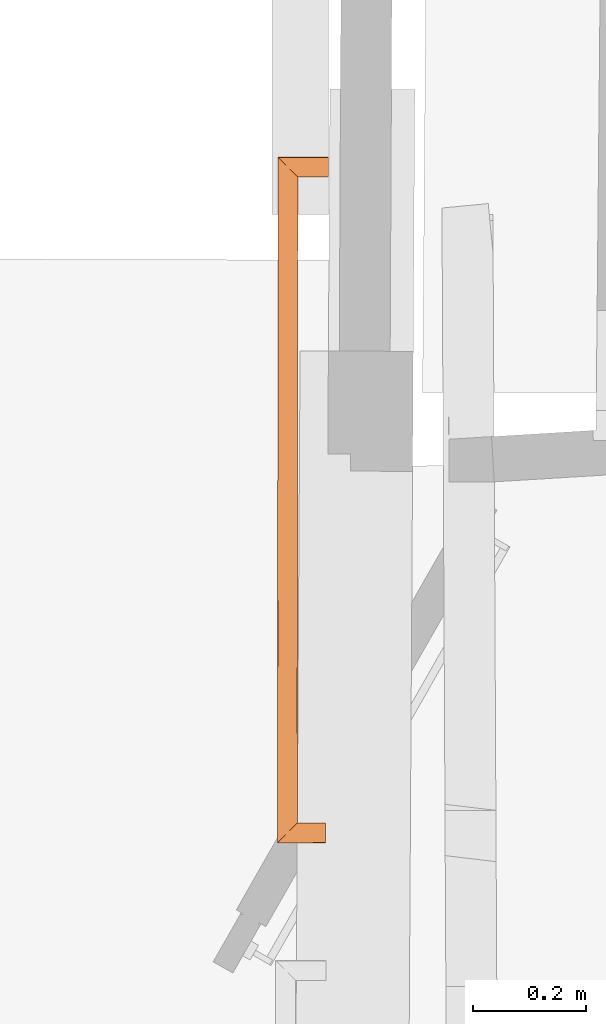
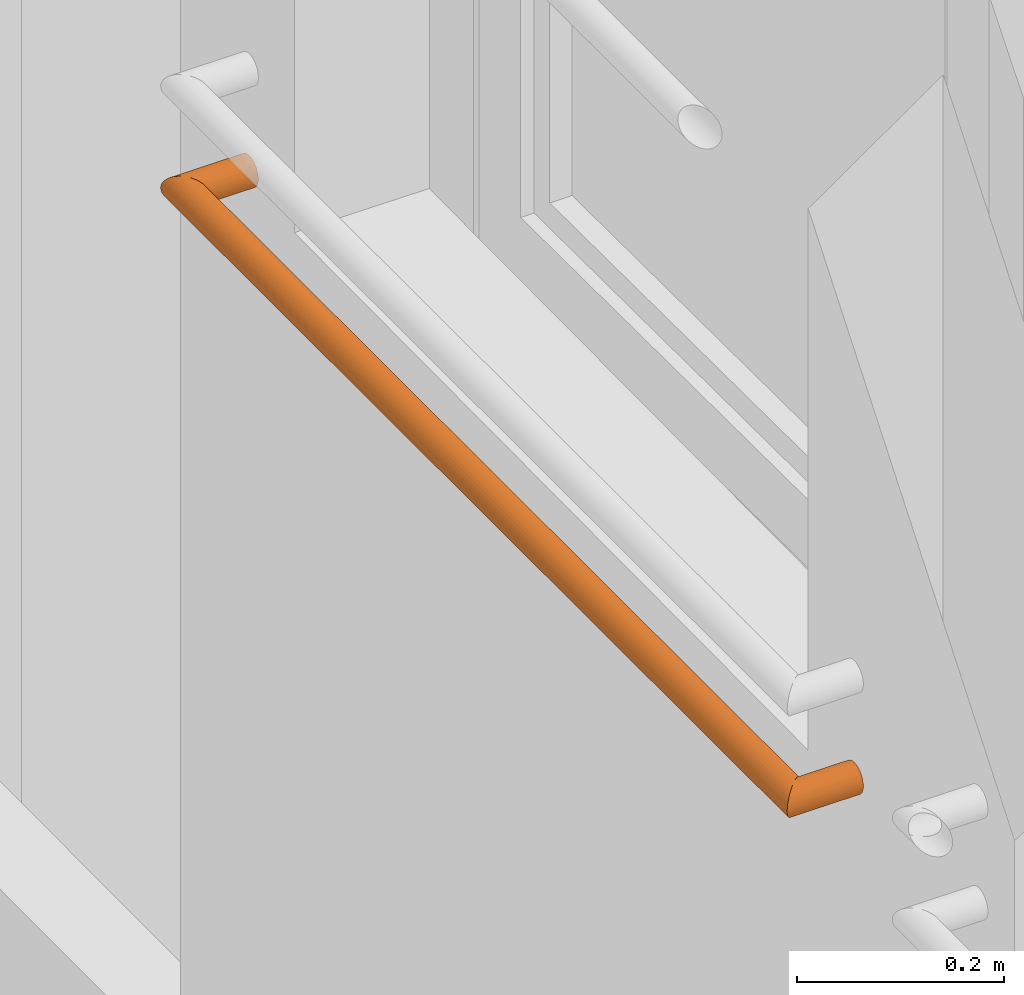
# One storey, part 93 of 97: 1 proxy.
"""IFC2X3 building model written with IfcOpenShell, lengths in centimetres."""

from ifc_helpers import new_model, entity, si_unit, converted_unit, direction, origin, origin_with_axes, place, context, subcontext, project, spatial, faceted_brep, material, type_object, element, save


model = new_model("IFC2X3")

# Units and contexts
model_context = context("Model", 3, precision=0.0001, world=origin(), true_north=direction((0.225632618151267, 0.974212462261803, 0.0)))
body_context = subcontext(model_context, "Body", "Model", "MODEL_VIEW")
ifc_project = project(units=[si_unit("LENGTHUNIT", "METRE", prefix="CENTI"), si_unit("AREAUNIT", "SQUARE_METRE", prefix="CENTI"), si_unit("VOLUMEUNIT", "CUBIC_METRE", prefix="CENTI"), converted_unit("PLANEANGLEUNIT", "DEGREE", entity("IfcRatioMeasure", 0.0174532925), si_unit("PLANEANGLEUNIT", "RADIAN"), dimensions=[0, 0, 0, 0, 0, 0, 0])], contexts=[model_context])

# Site, building, storey
site_placement = place(None, origin_with_axes())
site = spatial("IfcSite", under=ifc_project, at=site_placement, Name="Default Site", CompositionType="ELEMENT")
building_placement = place(site_placement, origin_with_axes())
building = spatial("IfcBuilding", under=site, at=building_placement, Name="Default Building", CompositionType="ELEMENT")
storey_placement = place(building_placement, origin_with_axes())
storey = spatial("IfcBuildingStorey", under=building, at=storey_placement, Name="Rez-de-chaussée", CompositionType="ELEMENT", Elevation=0.0)

# Proxy
ifc_material = material(Name="Aluminium mat")
building_element_proxy_type = type_object("IfcBuildingElementProxyType", Name="Profil [C] Ø35mm", PredefinedType="NOTDEFINED", material=ifc_material)
proxy_placement = place(storey_placement, origin_with_axes())
element("IfcBuildingElementProxy", 1, at=proxy_placement, inside=storey, type_object=building_element_proxy_type, material=ifc_material, Name="Extrusion (solide) 1702443", context=body_context, shape_type="Brep", body=[
    faceted_brep([(-1369.52114105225, -54.8991978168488, 300.0), (-1369.49453353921, -54.8726325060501, 299.696111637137), (-1361.02104187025, -54.8794747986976, 299.696111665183), (-1361.02113724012, -54.9060614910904, 299.999999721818), (-1369.49453353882, -54.8726320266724, 299.696111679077), (-1369.41556930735, -54.7937476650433, 299.401473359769), (-1361.02104187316, -54.800526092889, 299.40147299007), (-1361.02104186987, -54.8794743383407, 299.696111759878), (-1369.41556930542, -54.7937452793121, 299.401473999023), (-1369.28653717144, -54.6649289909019, 299.125003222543), (-1361.02094650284, -54.6716036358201, 299.125003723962), (-1361.0210418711, -54.8005235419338, 299.401473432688), (-1369.28653717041, -54.6649277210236, 299.125003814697), (-1369.11144256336, -54.4900981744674, 298.875119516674), (-1361.02075576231, -54.4966331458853, 298.875122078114), (-1361.02094650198, -54.6716025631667, 299.12500442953), (-1369.11144256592, -54.4901013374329, 298.875117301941), (-1368.89553070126, -54.2745776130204, 298.659419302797), (-1361.0205650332, -54.2809370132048, 298.65941971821), (-1361.02075576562, -54.4966372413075, 298.875120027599), (-1368.89553070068, -54.2745769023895, 298.659420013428), (-1368.64547729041, -54.0248993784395, 298.484452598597), (-1361.0203742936, -54.0310565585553, 298.484452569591), (-1361.02056503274, -54.2809364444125, 298.659420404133), (-1368.64547729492, -54.0249049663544, 298.484444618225), (-1368.36881637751, -53.7486634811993, 298.355526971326), (-1361.02018356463, -53.754599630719, 298.355527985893), (-1361.0203742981, -54.0310621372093, 298.484444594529), (-1368.36881637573, -53.7486612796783, 298.355531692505), (-1368.07384491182, -53.4542527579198, 298.276581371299), (-1361.01989746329, -53.4599452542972, 298.276580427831), (-1361.02018356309, -53.7545977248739, 298.355532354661), (-1368.07384490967, -53.4542500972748, 298.276591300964), (-1367.76971817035, -53.1506123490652, 298.250004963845), (-1361.01970672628, -53.1560602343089, 298.250004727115), (-1361.01989746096, -53.4599423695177, 298.2765909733), (-1367.76971817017, -53.15061211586, 298.250007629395), (-1367.46559143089, -52.8469684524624, 298.276594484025), (-1361.01942062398, -52.8521778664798, 298.276594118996), (-1361.01970672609, -53.1560600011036, 298.250007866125), (-1367.46559143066, -52.8469681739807, 298.276591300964), (-1367.17071533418, -52.5525596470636, 298.355541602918), (-1361.01922989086, -52.5575304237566, 298.355540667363), (-1361.01942062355, -52.8521773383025, 298.276590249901), (-1367.17071533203, -52.5525569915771, 298.355531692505), (-1366.89405441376, -52.2763204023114, 298.484447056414), (-1361.01894378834, -52.2810599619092, 298.484449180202), (-1361.01922988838, -52.5575273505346, 298.35553025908), (-1366.89405441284, -52.2763192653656, 298.484444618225), (-1366.64400100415, -52.0266377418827, 298.659414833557), (-1361.01875304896, -52.0311797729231, 298.659415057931), (-1361.01894378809, -52.2810596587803, 298.484447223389), (-1366.64400100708, -52.026641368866, 298.659420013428), (-1366.42808914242, -51.8111176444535, 298.875118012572), (-1361.01865768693, -51.8154832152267, 298.875120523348), (-1361.01875305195, -52.0311834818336, 298.659420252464), (-1366.42808914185, -51.8111169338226, 298.875117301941), (-1366.2529945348, -51.6362873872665, 299.125001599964), (-1361.01846694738, -51.6405139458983, 299.125002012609), (-1361.01865768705, -51.8154833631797, 298.875119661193), (-1366.25299453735, -51.6362905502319, 299.125003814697), (-1366.12396240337, -51.5074742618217, 299.401474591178), (-1361.01837158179, -51.5115973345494, 299.401473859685), (-1361.01846695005, -51.640517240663, 299.12500415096), (-1366.12396240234, -51.5074729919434, 299.401473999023), (-1366.04499817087, -51.4285886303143, 299.696112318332), (-1361.0182762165, -51.4326476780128, 299.696112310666), (-1361.01837158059, -51.5115958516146, 299.401473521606), (-1366.04499816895, -51.4285862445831, 299.696111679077), (-1366.0183906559, -51.4020209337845, 300.00000004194), (-1361.01827621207, -51.4060585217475, 299.999999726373), (-1361.01827621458, -51.4326452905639, 299.696111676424), (-1366.01839065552, -51.4020204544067, 300.0), (-1366.04499816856, -51.4285857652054, 300.303888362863), (-1361.01827621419, -51.4326448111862, 300.303888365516), (-1361.01827621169, -51.4060580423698, 300.000000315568), (-1366.04499816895, -51.4285862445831, 300.303888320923), (-1366.12396240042, -51.5074706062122, 300.598526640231), (-1361.01837157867, -51.5115934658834, 300.598527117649), (-1361.01827621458, -51.4326452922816, 300.303888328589), (-1366.12396240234, -51.5074729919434, 300.598526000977), (-1366.25299453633, -51.6362892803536, 300.874996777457), (-1361.01846694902, -51.6405159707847, 300.874996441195), (-1361.01837158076, -51.511596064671, 300.598526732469), (-1366.25299453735, -51.6362905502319, 300.874996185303), (-1366.4280891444, -51.8111200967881, 301.124880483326), (-1361.0186576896, -51.8154865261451, 301.124878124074), (-1361.01846694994, -51.6405171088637, 300.874995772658), (-1366.42808914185, -51.8111169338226, 301.124882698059), (-1366.64400100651, -52.0266406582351, 301.340580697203), (-1361.01875305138, -52.0311827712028, 301.340580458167), (-1361.01865768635, -51.8154825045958, 301.124880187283), (-1366.64400100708, -52.026641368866, 301.340579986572), (-1366.89405441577, -52.2763228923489, 301.515550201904), (-1361.01894379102, -52.2810632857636, 301.51554759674), (-1361.01875305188, -52.0311833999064, 301.340579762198), (-1366.89405441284, -52.2763192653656, 301.515555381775), (-1367.17071533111, -52.5525558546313, 301.644470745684), (-1361.01922988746, -52.5575262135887, 301.644472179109), (-1361.01894378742, -52.2810588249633, 301.515553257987), (-1367.17071533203, -52.5525569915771, 301.644468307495), (-1367.46559142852, -52.8469655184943, 301.723418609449), (-1361.01942062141, -52.8521746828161, 301.723419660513), (-1361.01922988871, -52.5575277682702, 301.644469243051), (-1367.46559143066, -52.8469681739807, 301.723408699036), (-1367.76971816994, -53.1506118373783, 301.749995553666), (-1361.01970672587, -53.156059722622, 301.749995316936), (-1361.01942062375, -52.8521775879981, 301.723409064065), (-1367.76971817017, -53.15061211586, 301.749992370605), (-1368.07384490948, -53.4542498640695, 301.723406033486), (-1361.01989746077, -53.4599421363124, 301.72340636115), (-1361.01970672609, -53.1560600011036, 301.749992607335), (-1368.07384490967, -53.4542500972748, 301.723408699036), (-1368.36881637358, -53.7486586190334, 301.644458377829), (-1361.02018356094, -53.7545950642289, 301.644457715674), (-1361.01989746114, -53.4599425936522, 301.723409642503), (-1368.36881637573, -53.7486612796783, 301.644468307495), (-1368.64547729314, -54.0249027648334, 301.515550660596), (-1361.02037429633, -54.0310599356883, 301.515550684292), (-1361.02018356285, -53.7545974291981, 301.644467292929), (-1368.64547729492, -54.0249049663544, 301.515555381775), (-1368.8955307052, -54.2745824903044, 301.340587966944), (-1361.02056503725, -54.2809420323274, 301.340587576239), (-1361.02037429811, -54.0310621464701, 301.515555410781), (-1368.89553070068, -54.2745769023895, 301.340579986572), (-1369.11144256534, -54.490100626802, 301.124881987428), (-1361.02075576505, -54.4966365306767, 301.12487926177), (-1361.02056503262, -54.280936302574, 301.340579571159), (-1369.11144256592, -54.4901013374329, 301.124882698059), (-1369.28653717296, -54.664930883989, 300.874998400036), (-1361.02094650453, -54.6716057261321, 300.874997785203), (-1361.02075576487, -54.4966363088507, 301.124880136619), (-1369.28653717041, -54.6649277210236, 300.874996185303), (-1369.41556930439, -54.7937440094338, 300.598525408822), (-1361.02104187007, -54.8005222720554, 300.598525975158), (-1361.02094650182, -54.6716023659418, 300.874995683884), (-1369.41556930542, -54.7937452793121, 300.598526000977), (-1369.49453353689, -54.8726296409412, 300.303887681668), (-1361.02104186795, -54.8794719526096, 300.303887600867), (-1361.02104187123, -54.8005237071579, 300.598526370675), (-1369.49453353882, -54.8726320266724, 300.303888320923), (-1369.52114105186, -54.899197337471, 299.99999995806), (-1361.02113723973, -54.9060610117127, 300.000000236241), (-1361.02104186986, -54.8794743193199, 300.303888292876), (-1369.42329406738, 66.2953019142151, 300.0), (-1369.39672914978, 66.268712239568, 299.696116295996), (-1369.49454948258, -54.8726320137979, 299.696110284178), (-1369.52115772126, -54.8991978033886, 299.99999854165), (-1369.39678192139, 66.2687122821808, 299.696111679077), (-1369.31789236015, 66.1897600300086, 299.401453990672), (-1369.41558966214, -54.7937452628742, 299.401468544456), (-1369.49459813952, -54.8726319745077, 299.696094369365), (-1369.31781768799, 66.1897599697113, 299.401473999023), (-1369.18901409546, 66.0608469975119, 299.125030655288), (-1369.28649584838, -54.6649277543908, 299.125023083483), (-1369.41552148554, -54.7937453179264, 299.401496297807), (-1369.18907165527, 66.0608470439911, 299.125003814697), (-1369.0142479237, 65.8858775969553, 298.875127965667), (-1369.11144305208, -54.4901013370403, 298.875116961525), (-1369.28655044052, -54.664927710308, 299.124994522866), (-1369.01426315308, 65.8858776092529, 298.875117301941), (-1368.79873636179, 65.6701803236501, 298.6594164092), (-1368.89556264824, -54.2745768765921, 298.659388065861), (-1369.1114542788, -54.4901013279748, 298.875105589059), (-1368.79873275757, 65.6701803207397, 298.659420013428), (-1368.5490551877, 65.4202997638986, 298.484452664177), (-1368.64548309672, -54.0249049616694, 298.484436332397), (-1368.89554934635, -54.2745768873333, 298.659393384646), (-1368.54906082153, 65.4202997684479, 298.484444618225), (-1368.27278993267, 65.1438355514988, 298.355513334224), (-1368.3688195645, -53.7486612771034, 298.355524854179), (-1368.64548350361, -54.0249049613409, 298.484431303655), (-1368.27278137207, 65.1438355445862, 298.355531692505), (-1367.97838395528, 64.8491859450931, 298.276584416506), (-1368.07385120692, -53.4542500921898, 298.276567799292), (-1368.36881436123, -53.748661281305, 298.355539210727), (-1367.9783821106, 64.8491859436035, 298.276591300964), (-1367.67473253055, 64.5452976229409, 298.250003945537), (-1367.76971889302, -53.1506121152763, 298.249999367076), (-1368.07384541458, -53.4542500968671, 298.276585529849), (-1367.67473220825, 64.5452976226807, 298.250007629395), (-1367.37108262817, 64.2414152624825, 298.276594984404), (-1367.46559204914, -52.8469681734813, 298.276598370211), (-1367.76971857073, -53.1506121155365, 298.250012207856), (-1367.37108230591, 64.2414152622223, 298.276591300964), (-1367.07668488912, 63.9467656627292, 298.355538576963), (-1367.17071986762, -52.5525569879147, 298.355548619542), (-1367.4655940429, -52.8469681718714, 298.276601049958), (-1367.07668304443, 63.9467656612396, 298.355531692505), (-1366.80041215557, 63.6703014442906, 298.484462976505), (-1366.89405856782, -52.2763192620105, 298.484453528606), (-1367.17072250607, -52.5525569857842, 298.355547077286), (-1366.80040359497, 63.6703014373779, 298.484444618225), (-1366.5507260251, 63.4204208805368, 298.659411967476), (-1366.64398004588, -52.026641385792, 298.659390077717), (-1366.89404629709, -52.276319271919, 298.48443302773), (-1366.55073165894, 63.4204208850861, 298.659420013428), (-1366.33520486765, 63.2047235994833, 298.875120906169), (-1366.42808608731, -51.8111169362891, 298.875114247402), (-1366.64397771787, -52.0266413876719, 298.659396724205), (-1366.33520126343, 63.2047235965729, 298.875117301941), (-1366.16037753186, 63.0297541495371, 299.124993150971), (-1366.25297281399, -51.6362905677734, 299.124988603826), (-1366.42808020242, -51.8111169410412, 298.875111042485), (-1366.16039276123, 63.0297541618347, 299.125003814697), (-1366.03157213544, 62.9008412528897, 299.401483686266), (-1366.12396094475, -51.5074729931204, 299.401473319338), (-1366.25298658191, -51.6362905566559, 299.125000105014), (-1366.03155136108, 62.9008412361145, 299.401473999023), (-1365.95266818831, 62.8218889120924, 299.696107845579), (-1366.04492867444, -51.4285863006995, 299.696093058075), (-1366.12393715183, -51.507473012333, 299.401467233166), (-1365.95268249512, 62.821888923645, 299.696111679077), (-1365.92611757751, 62.795299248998, 299.999995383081), (-1366.01833123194, -51.4020205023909, 299.999994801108), (-1366.04493947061, -51.4285862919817, 299.696106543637), (-1365.92617034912, 62.7952992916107, 300.0), (-1365.95273526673, 62.8218889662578, 300.303883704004), (-1366.04499224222, -51.4285862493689, 300.303888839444), (-1366.01838400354, -51.4020204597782, 300.000000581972), (-1365.95268249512, 62.821888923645, 300.303888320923), (-1366.03156566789, 62.9008412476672, 300.598522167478), (-1366.12395145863, -51.5074730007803, 300.598528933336), (-1366.04494298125, -51.4285862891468, 300.303903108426), (-1366.03155136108, 62.9008412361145, 300.598526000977), (-1366.16037198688, 63.0297541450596, 300.875005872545), (-1366.25296580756, -51.6362905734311, 300.875009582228), (-1366.1239401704, -51.5074730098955, 300.598536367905), (-1366.16039276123, 63.0297541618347, 300.874996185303), (-1366.3352164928, 63.2047236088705, 301.124872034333), (-1366.42809543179, -51.8111169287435, 301.124878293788), (-1366.25298804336, -51.6362905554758, 300.875000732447), (-1366.33520126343, 63.2047235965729, 301.124882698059), (-1366.55072805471, 63.4204208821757, 301.3405835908), (-1366.64397411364, -52.0266413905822, 301.340606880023), (-1366.42808248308, -51.8111169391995, 301.124889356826), (-1366.55073165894, 63.4204208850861, 301.340579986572), (-1366.80040922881, 63.6703014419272, 301.515547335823), (-1366.89405193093, -52.2763192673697, 301.515558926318), (-1366.64398567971, -52.0266413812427, 301.340601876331), (-1366.80040359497, 63.6703014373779, 301.515555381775), (-1367.07667448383, 63.946765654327, 301.644486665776), (-1367.17071394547, -52.5525569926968, 301.644471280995), (-1366.89405000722, -52.2763192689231, 301.515564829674), (-1367.07668304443, 63.9467656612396, 301.644468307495), (-1367.37108046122, 64.2414152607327, 301.723415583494), (-1367.46559219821, -52.8469681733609, 301.723405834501), (-1367.17071802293, -52.5525569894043, 301.644458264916), (-1367.37108230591, 64.2414152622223, 301.723408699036), (-1367.67473188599, 64.5452976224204, 301.749996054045), (-1367.76971824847, -53.1506121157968, 301.749991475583), (-1367.46559172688, -52.8469681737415, 301.723405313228), (-1367.67473220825, 64.5452976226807, 301.749992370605), (-1367.9783817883, 64.8491859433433, 301.723405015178), (-1368.07384509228, -53.4542500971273, 301.723410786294), (-1367.76971857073, -53.1506121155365, 301.749996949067), (-1367.9783821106, 64.8491859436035, 301.723408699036), (-1368.27277952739, 65.1438355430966, 301.644461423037), (-1368.36881251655, -53.7486612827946, 301.644453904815), (-1368.07384936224, -53.4542500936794, 301.723425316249), (-1368.27278137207, 65.1438355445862, 301.644468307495), (-1368.54905226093, 65.4202997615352, 301.515537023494), (-1368.645474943, -54.0249049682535, 301.515550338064), (-1368.36881100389, -53.7486612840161, 301.644456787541), (-1368.54906082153, 65.4202997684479, 301.515555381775), (-1368.7987383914, 65.670180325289, 301.340588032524), (-1368.89555498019, -54.274576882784, 301.340614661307), (-1368.64548873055, -54.0249049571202, 301.515571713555), (-1368.79873275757, 65.6701803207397, 301.340579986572), (-1369.01425954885, 65.8858776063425, 301.124879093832), (-1369.11145067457, -54.4901013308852, 301.124890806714), (-1368.89555904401, -54.2745768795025, 301.340608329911), (-1369.01426315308, 65.8858776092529, 301.124882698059), (-1369.18908688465, 66.0608470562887, 300.875006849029), (-1369.28656566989, -54.6649276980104, 300.875016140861), (-1369.11145828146, -54.4901013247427, 301.124893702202), (-1369.18907165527, 66.0608470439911, 300.874996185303), (-1369.3178752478, 66.1897600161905, 300.598552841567), (-1369.41557904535, -54.7937452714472, 300.598530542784), (-1369.28655340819, -54.6649277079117, 300.875003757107), (-1369.31781768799, 66.1897599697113, 300.598526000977), (-1369.39670724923, 66.2687122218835, 300.303868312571), (-1369.49452346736, -54.872632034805, 300.303885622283), (-1369.41551498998, -54.7937453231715, 300.598511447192), (-1369.39678192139, 66.2687122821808, 300.303888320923), (-1369.42334683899, 66.2953019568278, 300.000004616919), (-1369.52121049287, -54.8991977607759, 300.00000607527), (-1369.49460225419, -54.8726319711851, 300.303894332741), (-1360.53333282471, 66.2953019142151, 300.0), (-1360.53333282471, 66.2687151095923, 299.696111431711), (-1369.39678192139, 66.2687151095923, 299.696111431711), (-1360.53333282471, 66.2687122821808, 299.696111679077), (-1360.53333282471, 66.1897640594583, 299.401472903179), (-1369.31781768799, 66.1897640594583, 299.401472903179), (-1360.53333282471, 66.1897599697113, 299.401473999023), (-1360.53333282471, 66.0608410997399, 299.125006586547), (-1369.18907165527, 66.0608410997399, 299.125006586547), (-1360.53333282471, 66.0608470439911, 299.125003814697), (-1360.53333282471, 65.8858756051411, 298.875118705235), (-1369.01426315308, 65.8858756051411, 298.875118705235), (-1369.18907165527, 66.060847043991, 299.125003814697), (-1360.53333282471, 65.8858776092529, 298.875117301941), (-1360.53333282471, 65.6701803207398, 298.659420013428), (-1368.79873275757, 65.6701803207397, 298.659420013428), (-1360.53333282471, 65.420296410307, 298.484449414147), (-1368.54906082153, 65.420296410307, 298.484449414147), (-1360.53333282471, 65.4202997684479, 298.484444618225), (-1360.53333282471, 65.1438372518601, 298.355528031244), (-1368.27278137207, 65.1438372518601, 298.355528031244), (-1368.54906082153, 65.4202997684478, 298.484444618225), (-1360.53333282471, 65.1438355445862, 298.355531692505), (-1360.53333282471, 64.8491886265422, 298.276581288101), (-1367.9783821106, 64.8491886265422, 298.276581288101), (-1360.53333282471, 64.8491859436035, 298.276591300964), (-1360.53333282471, 64.5452978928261, 298.250004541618), (-1367.67473220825, 64.5452978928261, 298.250004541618), (-1360.53333282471, 64.5452976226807, 298.250007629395), (-1360.53333282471, 64.2414154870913, 298.276593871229), (-1367.37108230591, 64.2414154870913, 298.276593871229), (-1360.53333282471, 64.2414152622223, 298.276591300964), (-1360.53333282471, 63.9467683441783, 298.355541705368), (-1367.07668304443, 63.9467683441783, 298.355541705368), (-1360.53333282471, 63.9467656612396, 298.355531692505), (-1360.53333282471, 63.6703031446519, 298.484448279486), (-1366.80040359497, 63.6703031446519, 298.484448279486), (-1360.53333282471, 63.6703014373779, 298.484444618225), (-1360.53333282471, 63.4204175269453, 298.659415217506), (-1366.55073165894, 63.4204175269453, 298.659415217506), (-1360.53333282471, 63.4204208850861, 298.659420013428), (-1360.53333282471, 63.2047235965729, 298.875117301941), (-1360.53333282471, 63.0297521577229, 299.125002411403), (-1366.16039276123, 63.029752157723, 299.125002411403), (-1360.53333282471, 63.0297541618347, 299.125003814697), (-1360.53333282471, 62.9008352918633, 299.401471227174), (-1366.03155136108, 62.9008352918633, 299.401471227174), (-1360.53333282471, 62.9008412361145, 299.401473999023), (-1360.53333282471, 62.821893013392, 299.696112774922), (-1365.95268249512, 62.821893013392, 299.696112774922), (-1360.53333282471, 62.821888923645, 299.696111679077), (-1360.53333282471, 62.7953021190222, 300.000000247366), (-1365.92617034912, 62.7953021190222, 300.000000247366), (-1360.53333282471, 62.7952992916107, 300.0), (-1360.53333282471, 62.8218860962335, 300.303888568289), (-1365.95268249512, 62.8218860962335, 300.303888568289), (-1360.53333282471, 62.821888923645, 300.303888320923), (-1360.53333282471, 62.9008371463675, 300.598527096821), (-1366.03155136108, 62.9008371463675, 300.598527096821), (-1360.53333282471, 62.9008412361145, 300.598526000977), (-1360.53333282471, 63.0297601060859, 300.874993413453), (-1366.16039276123, 63.0297601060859, 300.874993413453), (-1360.53333282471, 63.0297541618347, 300.874996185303), (-1360.53333282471, 63.2047256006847, 301.124881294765), (-1366.33520126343, 63.2047256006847, 301.124881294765), (-1360.53333282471, 63.2047235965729, 301.124882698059), (-1360.53333282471, 63.420420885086, 301.340579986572), (-1366.55073165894, 63.420420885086, 301.340579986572), (-1360.53333282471, 63.4204208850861, 301.340579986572), (-1360.53333282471, 63.6703047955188, 301.515550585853), (-1366.80040359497, 63.6703047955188, 301.515550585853), (-1360.53333282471, 63.6703014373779, 301.515555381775), (-1360.53333282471, 63.9467639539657, 301.644471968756), (-1367.07668304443, 63.9467639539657, 301.644471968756), (-1360.53333282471, 63.9467656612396, 301.644468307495), (-1360.53333282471, 64.2414125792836, 301.723418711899), (-1367.37108230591, 64.2414125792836, 301.723418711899), (-1360.53333282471, 64.2414152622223, 301.723408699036), (-1360.53333282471, 64.5452973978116, 301.74999494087), (-1367.67473220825, 64.5452973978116, 301.74999494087), (-1360.53333282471, 64.5452976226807, 301.749992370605), (-1360.53333282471, 64.8491856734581, 301.723405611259), (-1367.9783821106, 64.8491856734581, 301.723405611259), (-1367.67473220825, 64.5452976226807, 301.749992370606), (-1360.53333282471, 64.8491859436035, 301.723408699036), (-1360.53333282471, 65.1438328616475, 301.644458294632), (-1368.27278137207, 65.1438328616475, 301.644458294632), (-1360.53333282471, 65.1438355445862, 301.644468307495), (-1360.53333282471, 65.420298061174, 301.515551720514), (-1368.54906082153, 65.420298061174, 301.515551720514), (-1360.53333282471, 65.4202997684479, 301.515555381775), (-1360.53333282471, 65.6701836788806, 301.340584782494), (-1368.79873275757, 65.6701836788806, 301.340584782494), (-1360.53333282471, 65.6701803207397, 301.340579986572), (-1360.53333282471, 65.8858776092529, 301.124882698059), (-1369.01426315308, 65.885877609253, 301.124882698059), (-1360.53333282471, 66.0608490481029, 300.874997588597), (-1369.18907165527, 66.0608490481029, 300.874997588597), (-1360.53333282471, 66.0608470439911, 300.874996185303), (-1360.53333282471, 66.1897659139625, 300.598528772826), (-1369.31781768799, 66.1897659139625, 300.598528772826), (-1360.53333282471, 66.1897599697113, 300.598526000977), (-1360.53333282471, 66.2687081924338, 300.303887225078), (-1369.39678192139, 66.2687081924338, 300.303887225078), (-1360.53333282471, 66.2687122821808, 300.303888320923), (-1360.53333282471, 66.2952990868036, 299.999999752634), (-1369.42329406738, 66.2952990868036, 299.999999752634), (-1361.02113723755, -54.9060583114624, 300.0), (-1361.02111577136, -54.8794745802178, 299.696111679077), (-1361.02105201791, -54.8005223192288, 299.401473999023), (-1361.02094791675, -54.6716034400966, 299.125003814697), (-1361.02080663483, -54.4966399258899, 298.875117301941), (-1361.02063245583, -54.2809366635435, 298.659420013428), (-1361.02043068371, -54.0310620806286, 298.484444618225), (-1361.02020744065, -53.7545978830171, 298.355531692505), (-1361.01996950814, -53.4599422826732, 298.276591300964), (-1361.01972412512, -53.1560599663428, 298.250007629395), (-1361.01947874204, -52.852177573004, 298.276591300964), (-1361.0192408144, -52.5575280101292, 298.355531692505), (-1361.01901756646, -52.2810577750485, 298.484444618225), (-1361.01881579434, -52.0311831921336, 298.659420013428), (-1361.0186416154, -51.8154800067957, 298.875117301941), (-1361.01850033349, -51.6405164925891, 299.125003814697), (-1361.01839623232, -51.5115976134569, 299.401473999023), (-1361.01833247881, -51.4326452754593, 299.696111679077), (-1361.01831101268, -51.4060616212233, 300.0), (-1361.01833247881, -51.4326452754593, 300.303888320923), (-1361.01839623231, -51.5115976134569, 300.598526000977), (-1361.01850033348, -51.6405164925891, 300.874996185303), (-1361.01864161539, -51.8154800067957, 301.124882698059), (-1361.01881579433, -52.0311831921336, 301.340579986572), (-1361.01901756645, -52.2810577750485, 301.515555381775), (-1361.0192408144, -52.5575280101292, 301.644468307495), (-1361.01947874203, -52.852177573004, 301.723408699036), (-1361.01972412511, -53.1560599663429, 301.749992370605), (-1361.01996950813, -53.4599422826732, 301.723408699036), (-1361.02020744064, -53.7545978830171, 301.644468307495), (-1361.0204306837, -54.0310620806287, 301.515555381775), (-1361.02063245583, -54.2809366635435, 301.340579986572), (-1361.02080663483, -54.4966399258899, 301.124882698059), (-1361.02094791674, -54.6716034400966, 300.874996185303), (-1361.02105201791, -54.8005223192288, 300.598526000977), (-1361.02111577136, -54.8794745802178, 300.303888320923)], [[[0, 1, 2, 3]], [[4, 5, 6, 7]], [[8, 9, 10, 11]], [[12, 13, 14, 15]], [[16, 17, 18, 19]], [[20, 21, 22, 23]], [[24, 25, 26, 27]], [[28, 29, 30, 31]], [[32, 33, 34, 35]], [[36, 37, 38, 39]], [[40, 41, 42, 43]], [[44, 45, 46, 47]], [[48, 49, 50, 51]], [[52, 53, 54, 55]], [[56, 57, 58, 59]], [[60, 61, 62, 63]], [[64, 65, 66, 67]], [[68, 69, 70, 71]], [[72, 73, 74, 75]], [[76, 77, 78, 79]], [[80, 81, 82, 83]], [[84, 85, 86, 87]], [[88, 89, 90, 91]], [[92, 93, 94, 95]], [[96, 97, 98, 99]], [[100, 101, 102, 103]], [[104, 105, 106, 107]], [[108, 109, 110, 111]], [[112, 113, 114, 115]], [[116, 117, 118, 119]], [[120, 121, 122, 123]], [[124, 125, 126, 127]], [[128, 129, 130, 131]], [[132, 133, 134, 135]], [[136, 137, 138, 139]], [[140, 141, 142, 143]], [[144, 145, 146, 147]], [[148, 149, 150, 151]], [[152, 153, 154, 155]], [[156, 157, 158, 159]], [[160, 161, 162, 163]], [[164, 165, 166, 167]], [[168, 169, 170, 171]], [[172, 173, 174, 175]], [[176, 177, 178, 179]], [[180, 181, 182, 183]], [[184, 185, 186, 187]], [[188, 189, 190, 191]], [[192, 193, 194, 195]], [[196, 197, 198, 199]], [[200, 201, 202, 203]], [[204, 205, 206, 207]], [[208, 209, 210, 211]], [[212, 213, 214, 215]], [[216, 217, 218, 219]], [[220, 221, 222, 223]], [[224, 225, 226, 227]], [[228, 229, 230, 231]], [[232, 233, 234, 235]], [[236, 237, 238, 239]], [[240, 241, 242, 243]], [[244, 245, 246, 247]], [[248, 249, 250, 251]], [[252, 253, 254, 255]], [[256, 257, 258, 259]], [[260, 261, 262, 263]], [[264, 265, 266, 267]], [[268, 269, 270, 271]], [[272, 273, 274, 275]], [[276, 277, 278, 279]], [[280, 281, 282, 283]], [[284, 285, 286, 287]], [[288, 289, 290, 144]], [[291, 292, 293, 148]], [[294, 295, 296, 152]], [[297, 298, 299, 300]], [[301, 302, 303, 160]], [[302, 304, 305, 303]], [[306, 307, 308, 309]], [[310, 311, 312, 172]], [[313, 314, 315, 176]], [[316, 317, 318, 180]], [[319, 320, 321, 184]], [[322, 323, 324, 188]], [[325, 326, 327, 192]], [[328, 329, 200, 196]], [[329, 330, 331, 200]], [[332, 333, 334, 204]], [[335, 336, 337, 208]], [[338, 339, 340, 212]], [[341, 342, 343, 216]], [[344, 345, 346, 220]], [[347, 348, 349, 224]], [[350, 351, 352, 228]], [[353, 354, 355, 232]], [[356, 357, 358, 355]], [[359, 360, 361, 240]], [[362, 363, 364, 244]], [[365, 366, 367, 248]], [[368, 369, 370, 371]], [[372, 373, 374, 256]], [[375, 376, 377, 260]], [[378, 379, 380, 264]], [[381, 382, 383, 268]], [[382, 384, 385, 383]], [[386, 387, 388, 276]], [[389, 390, 391, 280]], [[392, 393, 394, 284]], [[395, 396, 397, 398, 399, 400, 401, 402, 403, 404, 405, 406, 407, 408, 409, 410, 411, 412, 413, 414, 415, 416, 417, 418, 419, 420, 421, 422, 423, 424, 425, 426, 427, 428, 429, 430]], [[392, 389, 386, 382, 381, 378, 375, 372, 368, 365, 362, 359, 356, 353, 350, 347, 344, 341, 338, 335, 332, 329, 328, 325, 322, 319, 316, 313, 310, 306, 302, 301, 297, 294, 291, 288]]]),
])

save(model, "model.ifc")
